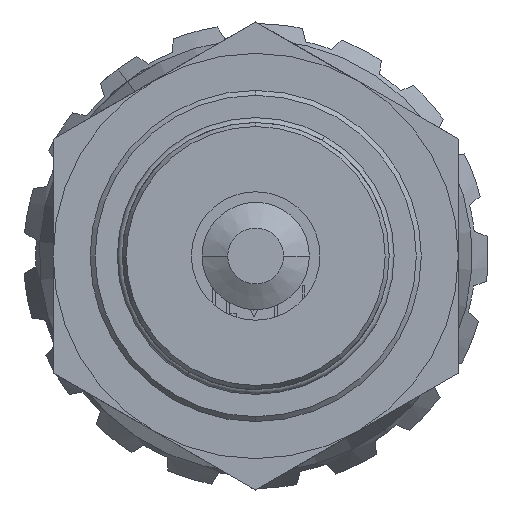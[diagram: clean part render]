
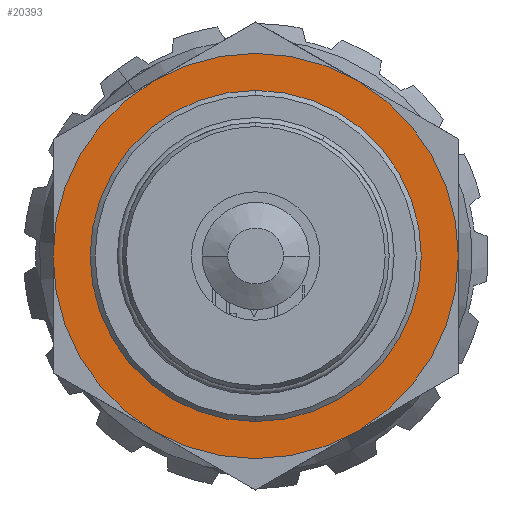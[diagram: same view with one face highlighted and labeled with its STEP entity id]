
A CAD part, front view. The second image highlights one B-rep face of the part: STEP entity #20393.
In plain terms, the highlighted planar face has unit normal (0, -1, 0).
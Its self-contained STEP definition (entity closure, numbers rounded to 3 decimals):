
#988 = DIRECTION ( 'NONE',  ( 0., -1., 0. ) ) ;
#1054 = VERTEX_POINT ( 'NONE', #21942 ) ;
#3160 = CIRCLE ( 'NONE', #10363, 20.5 ) ;
#4629 = CARTESIAN_POINT ( 'NONE',  ( 0., -7.5, 0. ) ) ;
#4703 = CIRCLE ( 'NONE', #14893, 20.5 ) ;
#5722 = ORIENTED_EDGE ( 'NONE', *, *, #15669, .T. ) ;
#6265 = CARTESIAN_POINT ( 'NONE',  ( 0., -7.5, 0. ) ) ;
#6280 = ORIENTED_EDGE ( 'NONE', *, *, #17228, .F. ) ;
#6385 = CARTESIAN_POINT ( 'NONE',  ( 0., -7.5, -31.843 ) ) ;
#6557 = DIRECTION ( 'NONE',  ( 0., 0., -1. ) ) ;
#6973 = CIRCLE ( 'NONE', #15713, 16.1 ) ;
#7244 = ORIENTED_EDGE ( 'NONE', *, *, #22006, .F. ) ;
#8184 = DIRECTION ( 'NONE',  ( 0., 0., -1. ) ) ;
#8305 = DIRECTION ( 'NONE',  ( 0., 0., 1. ) ) ;
#9703 = ORIENTED_EDGE ( 'NONE', *, *, #18976, .T. ) ;
#10068 = AXIS2_PLACEMENT_3D ( 'NONE', #6385, #19942, #8305 ) ;
#10363 = AXIS2_PLACEMENT_3D ( 'NONE', #4629, #18202, #6557 ) ;
#11152 = DIRECTION ( 'NONE',  ( 0., -1., 0. ) ) ;
#11310 = CARTESIAN_POINT ( 'NONE',  ( 0., -7.5, -20.5 ) ) ;
#11701 = VERTEX_POINT ( 'NONE', #12331 ) ;
#11964 = EDGE_LOOP ( 'NONE', ( #9703, #5722 ) ) ;
#12331 = CARTESIAN_POINT ( 'NONE',  ( 0., -7.5, -16.1 ) ) ;
#12576 = CARTESIAN_POINT ( 'NONE',  ( 0., -7.5, 0. ) ) ;
#12857 = VERTEX_POINT ( 'NONE', #17947 ) ;
#14534 = DIRECTION ( 'NONE',  ( 0., 0., -1. ) ) ;
#14893 = AXIS2_PLACEMENT_3D ( 'NONE', #6265, #19828, #8184 ) ;
#15669 = EDGE_CURVE ( 'NONE', #1054, #20656, #4703, .T. ) ;
#15713 = AXIS2_PLACEMENT_3D ( 'NONE', #22788, #11152, #24662 ) ;
#16218 = FACE_BOUND ( 'NONE', #23231, .T. ) ;
#17228 = EDGE_CURVE ( 'NONE', #12857, #11701, #21445, .T. ) ;
#17947 = CARTESIAN_POINT ( 'NONE',  ( 0., -7.5, 16.1 ) ) ;
#18202 = DIRECTION ( 'NONE',  ( 0., -1., 0. ) ) ;
#18976 = EDGE_CURVE ( 'NONE', #20656, #1054, #3160, .T. ) ;
#19828 = DIRECTION ( 'NONE',  ( 0., -1., 0. ) ) ;
#19942 = DIRECTION ( 'NONE',  ( 0., 1., 0. ) ) ;
#20393 = ADVANCED_FACE ( 'NONE', ( #16218, #21320 ), #23686, .F. ) ;
#20458 = AXIS2_PLACEMENT_3D ( 'NONE', #12576, #988, #14534 ) ;
#20656 = VERTEX_POINT ( 'NONE', #11310 ) ;
#21320 = FACE_OUTER_BOUND ( 'NONE', #11964, .T. ) ;
#21445 = CIRCLE ( 'NONE', #20458, 16.1 ) ;
#21942 = CARTESIAN_POINT ( 'NONE',  ( 0., -7.5, 20.5 ) ) ;
#22006 = EDGE_CURVE ( 'NONE', #11701, #12857, #6973, .T. ) ;
#22788 = CARTESIAN_POINT ( 'NONE',  ( 0., -7.5, 0. ) ) ;
#23231 = EDGE_LOOP ( 'NONE', ( #6280, #7244 ) ) ;
#23686 = PLANE ( 'NONE',  #10068 ) ;
#24662 = DIRECTION ( 'NONE',  ( 0., 0., -1. ) ) ;
